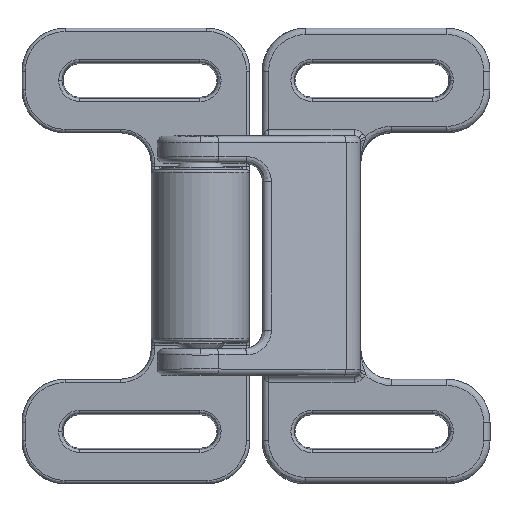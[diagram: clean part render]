
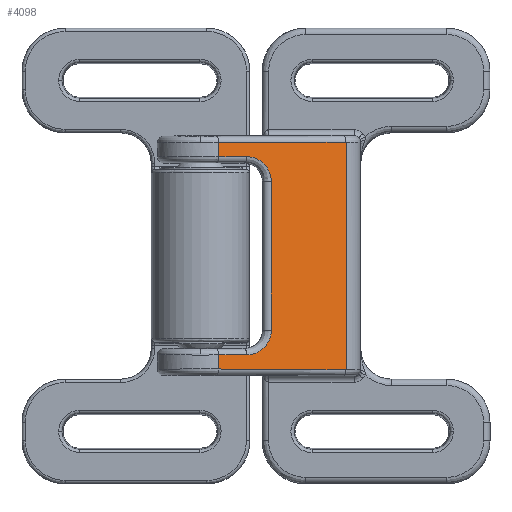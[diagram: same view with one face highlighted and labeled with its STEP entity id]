
A CAD part, top view. The second image highlights one B-rep face of the part: STEP entity #4098.
In plain terms, the highlighted planar face has unit normal (0.423, 0, 0.906) as drawn and (0, 0.906, 0.423) by its records, which use the part's own axes.
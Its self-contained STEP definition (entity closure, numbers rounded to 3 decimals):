
#464 = VERTEX_POINT ( 'NONE', #8365 ) ;
#671 = CARTESIAN_POINT ( 'NONE',  ( 16.109, 21.344, -15.142 ) ) ;
#1065 = CARTESIAN_POINT ( 'NONE',  ( -13.121, 17.417, -6.72 ) ) ;
#1428 = ORIENTED_EDGE ( 'NONE', *, *, #9205, .F. ) ;
#1802 = VECTOR ( 'NONE', #15269, 1000. ) ;
#2332 = DIRECTION ( 'NONE',  ( 0., 0.423, -0.906 ) ) ;
#2353 = CARTESIAN_POINT ( 'NONE',  ( -12.074, 17.369, -6.616 ) ) ;
#2479 = CARTESIAN_POINT ( 'NONE',  ( -16.109, 21.344, -15.142 ) ) ;
#2711 = DIRECTION ( 'NONE',  ( 1., 0., 0. ) ) ;
#2770 = CARTESIAN_POINT ( 'NONE',  ( 18.467, 11.71, 5.52 ) ) ;
#2803 = DIRECTION ( 'NONE',  ( 1., 0., 0. ) ) ;
#3076 = VECTOR ( 'NONE', #3741, 1000. ) ;
#3089 = CARTESIAN_POINT ( 'NONE',  ( 12.597, 17.369, -6.616 ) ) ;
#3534 = VECTOR ( 'NONE', #13805, 1000. ) ;
#3558 = PLANE ( 'NONE',  #9078 ) ;
#3607 = CARTESIAN_POINT ( 'NONE',  ( 16.09, 19.234, -10.616 ) ) ;
#3741 = DIRECTION ( 'NONE',  ( 0.004, -0.423, 0.906 ) ) ;
#3852 = LINE ( 'NONE', #10228, #9892 ) ;
#4098 = ADVANCED_FACE ( 'NONE', ( #8823 ), #3558, .F. ) ;
#4373 = CARTESIAN_POINT ( 'NONE',  ( 12.074, 17.369, -6.616 ) ) ;
#4435 = CARTESIAN_POINT ( 'NONE',  ( 14.09, 17.604, -7.121 ) ) ;
#4808 = CARTESIAN_POINT ( 'NONE',  ( -16.109, 21.344, -15.142 ) ) ;
#4972 = EDGE_LOOP ( 'NONE', ( #1428, #14870, #14853, #13887, #12857, #5415, #6422, #16280, #11607, #7937 ) ) ;
#5415 = ORIENTED_EDGE ( 'NONE', *, *, #7526, .F. ) ;
#5664 = CARTESIAN_POINT ( 'NONE',  ( -18.383, 21.344, -15.142 ) ) ;
#5731 = CARTESIAN_POINT ( 'NONE',  ( 15.279, 18.088, -8.158 ) ) ;
#6138 = CARTESIAN_POINT ( 'NONE',  ( -16.088, 18.99, -10.093 ) ) ;
#6213 = DIRECTION ( 'NONE',  ( 0.004, 0.423, -0.906 ) ) ;
#6353 = CARTESIAN_POINT ( 'NONE',  ( 18.383, 21.344, -15.142 ) ) ;
#6414 = VERTEX_POINT ( 'NONE', #671 ) ;
#6422 = ORIENTED_EDGE ( 'NONE', *, *, #15225, .F. ) ;
#6424 = DIRECTION ( 'NONE',  ( -1., 0., 0. ) ) ;
#6804 = VECTOR ( 'NONE', #2711, 1000. ) ;
#7016 = CARTESIAN_POINT ( 'NONE',  ( 15.982, 18.746, -9.569 ) ) ;
#7053 = VERTEX_POINT ( 'NONE', #2479 ) ;
#7353 = CARTESIAN_POINT ( 'NONE',  ( -15.982, 18.746, -9.569 ) ) ;
#7446 = CARTESIAN_POINT ( 'NONE',  ( 19.5, 11.71, 5.52 ) ) ;
#7470 = CARTESIAN_POINT ( 'NONE',  ( -15.279, 18.088, -8.158 ) ) ;
#7526 = EDGE_CURVE ( 'NONE', #11851, #11885, #11651, .T. ) ;
#7929 = VERTEX_POINT ( 'NONE', #2770 ) ;
#7937 = ORIENTED_EDGE ( 'NONE', *, *, #8827, .F. ) ;
#8307 = CARTESIAN_POINT ( 'NONE',  ( 16.09, 19.234, -10.616 ) ) ;
#8365 = CARTESIAN_POINT ( 'NONE',  ( 16.09, 19.234, -10.616 ) ) ;
#8554 = VECTOR ( 'NONE', #6213, 1000. ) ;
#8648 = LINE ( 'NONE', #16545, #1802 ) ;
#8754 = CARTESIAN_POINT ( 'NONE',  ( -14.09, 17.604, -7.121 ) ) ;
#8789 = CARTESIAN_POINT ( 'NONE',  ( 12.074, 17.369, -6.616 ) ) ;
#8823 = FACE_OUTER_BOUND ( 'NONE', #4972, .T. ) ;
#8827 = EDGE_CURVE ( 'NONE', #7929, #10520, #3852, .T. ) ;
#8967 = VECTOR ( 'NONE', #12674, 1000. ) ;
#9078 = AXIS2_PLACEMENT_3D ( 'NONE', #7446, #10029, #2332 ) ;
#9096 = CARTESIAN_POINT ( 'NONE',  ( -12.074, 17.369, -6.616 ) ) ;
#9205 = EDGE_CURVE ( 'NONE', #16307, #7929, #9507, .T. ) ;
#9507 = LINE ( 'NONE', #6353, #3076 ) ;
#9892 = VECTOR ( 'NONE', #6424, 1000. ) ;
#10029 = DIRECTION ( 'NONE',  ( 0., -0.906, -0.423 ) ) ;
#10055 = CARTESIAN_POINT ( 'NONE',  ( -12.597, 17.369, -6.616 ) ) ;
#10090 = LINE ( 'NONE', #13102, #13511 ) ;
#10165 = CARTESIAN_POINT ( 'NONE',  ( -16.09, 19.234, -10.616 ) ) ;
#10228 = CARTESIAN_POINT ( 'NONE',  ( 19.5, 11.71, 5.52 ) ) ;
#10267 = EDGE_CURVE ( 'NONE', #12851, #7053, #10090, .T. ) ;
#10520 = VERTEX_POINT ( 'NONE', #11403 ) ;
#10986 = VERTEX_POINT ( 'NONE', #8789 ) ;
#11397 = CARTESIAN_POINT ( 'NONE',  ( -18.467, 11.71, 5.52 ) ) ;
#11403 = CARTESIAN_POINT ( 'NONE',  ( -18.467, 11.71, 5.52 ) ) ;
#11496 = EDGE_CURVE ( 'NONE', #6414, #16307, #8648, .T. ) ;
#11607 = ORIENTED_EDGE ( 'NONE', *, *, #15277, .F. ) ;
#11651 = B_SPLINE_CURVE_WITH_KNOTS ( 'NONE', 3,
 ( #13876, #6138, #7353, #15139, #7470, #16420, #8754, #1065, #10055, #2353 ),
 .UNSPECIFIED., .F., .F.,
 ( 4, 2, 2, 2, 4 ),
 ( 0., 0.25, 0.5, 0.75, 1. ),
 .UNSPECIFIED. ) ;
#11716 = CARTESIAN_POINT ( 'NONE',  ( 19.5, 17.369, -6.616 ) ) ;
#11851 = VERTEX_POINT ( 'NONE', #10165 ) ;
#11885 = VERTEX_POINT ( 'NONE', #9096 ) ;
#12025 = EDGE_CURVE ( 'NONE', #10986, #464, #16117, .T. ) ;
#12124 = CARTESIAN_POINT ( 'NONE',  ( 13.121, 17.417, -6.72 ) ) ;
#12674 = DIRECTION ( 'NONE',  ( 0.004, 0.423, -0.906 ) ) ;
#12851 = VERTEX_POINT ( 'NONE', #5664 ) ;
#12857 = ORIENTED_EDGE ( 'NONE', *, *, #14211, .F. ) ;
#12987 = LINE ( 'NONE', #11397, #8967 ) ;
#13102 = CARTESIAN_POINT ( 'NONE',  ( 19.5, 21.344, -15.142 ) ) ;
#13217 = LINE ( 'NONE', #11716, #6804 ) ;
#13422 = CARTESIAN_POINT ( 'NONE',  ( 14.535, 17.742, -7.418 ) ) ;
#13511 = VECTOR ( 'NONE', #2803, 1000. ) ;
#13799 = LINE ( 'NONE', #4808, #3534 ) ;
#13805 = DIRECTION ( 'NONE',  ( 0.004, -0.423, 0.906 ) ) ;
#13876 = CARTESIAN_POINT ( 'NONE',  ( -16.09, 19.234, -10.616 ) ) ;
#13887 = ORIENTED_EDGE ( 'NONE', *, *, #12025, .F. ) ;
#14211 = EDGE_CURVE ( 'NONE', #11885, #10986, #13217, .T. ) ;
#14704 = CARTESIAN_POINT ( 'NONE',  ( 15.577, 18.295, -8.602 ) ) ;
#14853 = ORIENTED_EDGE ( 'NONE', *, *, #15700, .F. ) ;
#14870 = ORIENTED_EDGE ( 'NONE', *, *, #11496, .F. ) ;
#14969 = LINE ( 'NONE', #3607, #8554 ) ;
#15139 = CARTESIAN_POINT ( 'NONE',  ( -15.577, 18.295, -8.602 ) ) ;
#15225 = EDGE_CURVE ( 'NONE', #7053, #11851, #13799, .T. ) ;
#15269 = DIRECTION ( 'NONE',  ( 1., 0., 0. ) ) ;
#15277 = EDGE_CURVE ( 'NONE', #10520, #12851, #12987, .T. ) ;
#15475 = CARTESIAN_POINT ( 'NONE',  ( 18.383, 21.344, -15.142 ) ) ;
#15700 = EDGE_CURVE ( 'NONE', #464, #6414, #14969, .T. ) ;
#15958 = CARTESIAN_POINT ( 'NONE',  ( 16.088, 18.99, -10.093 ) ) ;
#16117 = B_SPLINE_CURVE_WITH_KNOTS ( 'NONE', 3,
 ( #4373, #3089, #12124, #4435, #13422, #5731, #14704, #7016, #15958, #8307 ),
 .UNSPECIFIED., .F., .F.,
 ( 4, 2, 2, 2, 4 ),
 ( 0., 0.25, 0.5, 0.75, 1. ),
 .UNSPECIFIED. ) ;
#16280 = ORIENTED_EDGE ( 'NONE', *, *, #10267, .F. ) ;
#16307 = VERTEX_POINT ( 'NONE', #15475 ) ;
#16420 = CARTESIAN_POINT ( 'NONE',  ( -14.535, 17.742, -7.418 ) ) ;
#16545 = CARTESIAN_POINT ( 'NONE',  ( 19.5, 21.344, -15.142 ) ) ;
